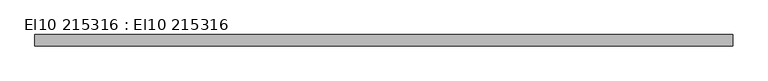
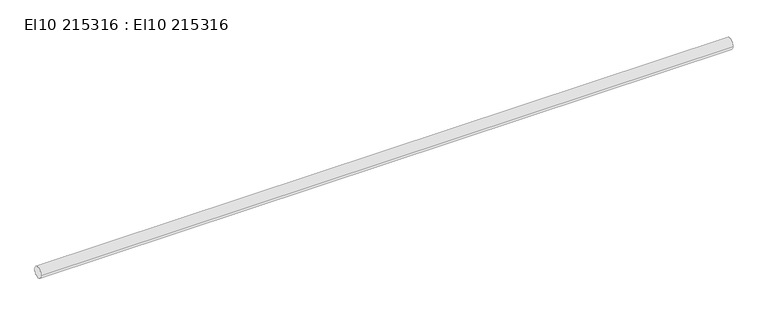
"""IFC4 building model written with IfcOpenShell, lengths in millimetres: cable carrier segment geometry, El10 215316 : El10 215316."""

import ifcopenshell
import ifcopenshell.guid

model = None  # the IFC model being written
_history = None  # IfcOwnerHistory: only IFC2X3 demands one
_inside = {}  # id of a spatial element -> (the spatial element, [elements in it])
_under = {}  # id of a project, library or spatial element -> (it, [spatial elements below it])
_declared = {}  # id of a project -> (the project, [libraries it declares])
_typed = {}  # id of a type object -> (the type object, [elements of that type])
_made_of = {}  # id of a material, layer set ... -> (it, [elements and type objects made of it])


def new_model(schema):
    """Start an empty IFC model of exactly this schema.

    Asked for "IFC4X3", IfcOpenShell would pick the latest addendum, in which some entities
    have other attributes; the version numbers below select the first issue.
    IFC2X3 requires an IfcOwnerHistory on every rooted entity: one is made here for all.
    """
    global model, _history
    if schema == "IFC4X3":
        model = ifcopenshell.file(schema_version=(4, 3, 0, 0))
    else:
        model = ifcopenshell.file(schema=schema)
    _inside.clear()
    _under.clear()
    _declared.clear()
    _typed.clear()
    _made_of.clear()
    _history = None
    if model.schema == "IFC2X3":
        org = make("IfcOrganization", Name="unknown")
        user = make(
            "IfcPersonAndOrganization",
            ThePerson=make("IfcPerson", FamilyName="unknown"),
            TheOrganization=org,
        )
        app = make(
            "IfcApplication",
            ApplicationDeveloper=org,
            Version="unknown",
            ApplicationFullName="unknown",
            ApplicationIdentifier="unknown",
        )
        _history = make(
            "IfcOwnerHistory",
            OwningUser=user,
            OwningApplication=app,
            ChangeAction="ADDED",
            CreationDate=0,
        )
    return model


def make(cls, **values):
    """One entity of the class cls with the attributes given. An attribute that is None is left unset."""
    return model.create_entity(
        cls, **{name: value for name, value in values.items() if value is not None}
    )


def rooted(cls, **values):
    """An entity with a GlobalId (a new one), such as an element, a storey or a relation."""
    return make(cls, GlobalId=ifcopenshell.guid.new(), OwnerHistory=_history, **values)


def si_unit(unit_type, name, prefix=None):
    """IfcSIUnit, for example si_unit("LENGTHUNIT", "METRE", prefix="MILLI")."""
    return make("IfcSIUnit", UnitType=unit_type, Prefix=prefix, Name=name)


def assignment(units):
    """IfcUnitAssignment: the units of a project."""
    return None if units is None else make("IfcUnitAssignment", Units=units)


def point(xyz):
    """IfcCartesianPoint."""
    return None if xyz is None else make("IfcCartesianPoint", Coordinates=xyz)


def direction(xyz):
    """IfcDirection."""
    return None if xyz is None else make("IfcDirection", DirectionRatios=xyz)


def frame(location, z_axis=None, x_axis=None):
    """IfcAxis2Placement3D, a coordinate frame: its origin and axes. An axis left out is left unset."""
    return make(
        "IfcAxis2Placement3D",
        Location=point(location),
        Axis=direction(z_axis),
        RefDirection=direction(x_axis),
    )


def frame_2d(location, x_axis=None):
    """IfcAxis2Placement2D, a coordinate frame in the plane: its origin and x axis."""
    return make(
        "IfcAxis2Placement2D", Location=point(location), RefDirection=direction(x_axis)
    )


def origin():
    """The frame at (0, 0, 0) with its axes left unset."""
    return frame((0.0, 0.0, 0.0))


def place(relative_to, where):
    """IfcLocalPlacement: puts the frame where relative to a parent placement (None: the world)."""
    return make(
        "IfcLocalPlacement", PlacementRelTo=relative_to, RelativePlacement=where
    )


def context(
    kind, dimensions, precision=None, world=None, true_north=None, identifier=None
):
    """IfcGeometricRepresentationContext, for example the 3D "Model" context."""
    return make(
        "IfcGeometricRepresentationContext",
        ContextIdentifier=identifier,
        ContextType=kind,
        CoordinateSpaceDimension=dimensions,
        Precision=precision,
        WorldCoordinateSystem=world,
        TrueNorth=true_north,
    )


def project(units=None, contexts=None):
    """IfcProject with its units and contexts."""
    return rooted(
        "IfcProject",
        Name="project",
        RepresentationContexts=contexts,
        UnitsInContext=assignment(units),
    )


def spatial(cls, under=None, at=None, **own):
    """A site, building, storey or space (cls), placed at a placement, below another one or the project."""
    s = rooted(cls, ObjectPlacement=at, **own)
    if under is not None:
        _under.setdefault(under.id(), (under, []))[1].append(s)
    return s


def circle_curve(where, radius):
    """IfcCircle in the frame where."""
    return make("IfcCircle", Position=where, Radius=radius)


def trimmed(basis, trim1, trim2, sense, master):
    """IfcTrimmedCurve: the piece of a basis curve between two trims."""
    return make(
        "IfcTrimmedCurve",
        BasisCurve=basis,
        Trim1=trim1,
        Trim2=trim2,
        SenseAgreement=sense,
        MasterRepresentation=master,
    )


def segment(curve, same_sense, transition):
    """IfcCompositeCurveSegment."""
    return make(
        "IfcCompositeCurveSegment",
        Transition=transition,
        SameSense=same_sense,
        ParentCurve=curve,
    )


def composite_curve(segments, self_intersect=None):
    """IfcCompositeCurve: segments joined end to end."""
    return make("IfcCompositeCurve", Segments=segments, SelfIntersect=self_intersect)


def outline(outer, holes=None, kind="AREA"):
    """IfcArbitraryClosedProfileDef: a profile drawn as a closed curve; with holes, ...WithVoids."""
    if holes is None:
        return make("IfcArbitraryClosedProfileDef", ProfileType=kind, OuterCurve=outer)
    return make(
        "IfcArbitraryProfileDefWithVoids",
        ProfileType=kind,
        OuterCurve=outer,
        InnerCurves=holes,
    )


def extrude(swept, where, along, depth):
    """IfcExtrudedAreaSolid: the profile swept, set in the frame where, extruded along a direction by depth."""
    return make(
        "IfcExtrudedAreaSolid",
        SweptArea=swept,
        Position=where,
        ExtrudedDirection=direction(along),
        Depth=depth,
    )


def shape(context_of_items, identifier, shape_type, items):
    """IfcShapeRepresentation: the items that make up one representation, for example the "Body"."""
    return make(
        "IfcShapeRepresentation",
        ContextOfItems=context_of_items,
        RepresentationIdentifier=identifier,
        RepresentationType=shape_type,
        Items=items,
    )


def source(mapping_origin, context_of_items, identifier, shape_type, items):
    """IfcRepresentationMap: a shape defined once, which mapped items show again and again."""
    return make(
        "IfcRepresentationMap",
        MappingOrigin=mapping_origin,
        MappedRepresentation=shape(context_of_items, identifier, shape_type, items),
    )


def transform(
    local_origin,
    x_axis=None,
    y_axis=None,
    z_axis=None,
    scale=None,
    scale2=None,
    scale3=None,
    uniform=True,
):
    """IfcCartesianTransformationOperator3D, or its non-uniform kind. x_axis, y_axis, z_axis: its Axis1, 2, 3."""
    if uniform:
        return make(
            "IfcCartesianTransformationOperator3D",
            Axis1=direction(x_axis),
            Axis2=direction(y_axis),
            LocalOrigin=point(local_origin),
            Scale=scale,
            Axis3=direction(z_axis),
        )
    return make(
        "IfcCartesianTransformationOperator3DnonUniform",
        Axis1=direction(x_axis),
        Axis2=direction(y_axis),
        LocalOrigin=point(local_origin),
        Scale=scale,
        Axis3=direction(z_axis),
        Scale2=scale2,
        Scale3=scale3,
    )


def mapped(mapping_source, mapping_target):
    """IfcMappedItem: shows the shape of a source again, moved by a transform."""
    return make(
        "IfcMappedItem", MappingSource=mapping_source, MappingTarget=mapping_target
    )


def made_of(thing, what):
    """Note that an element or type object is made of a material, layer set ...; save() writes the relation."""
    if what is not None:
        _made_of.setdefault(what.id(), (what, []))[1].append(thing)
    return thing


def element(
    cls,
    number,
    at=None,
    inside=None,
    cuts=None,
    type_object=None,
    material=None,
    context=None,
    identifier="Body",
    shape_type=None,
    held_by="IfcProductDefinitionShape",
    body=None,
    shapes=None,
    **own,
):
    """One element of the class cls, such as IfcWall. Its Tag is "e" and its number.

    at: its placement. inside: the storey or other place that contains it. cuts: it is an
    opening in that element (IfcRelVoidsElement). A single representation is given by context,
    identifier, shape_type and body (its items); several are given by shapes. held_by: the class
    of the entity that holds the representations. save() writes the other relations.
    """
    e = rooted(cls, Tag="e%d" % number, ObjectPlacement=at, **own)
    if body is not None:
        shapes = [shape(context, identifier, shape_type, body)]
    if shapes is not None:
        e.Representation = make(held_by, Representations=shapes)
    if inside is not None:
        _inside.setdefault(inside.id(), (inside, []))[1].append(e)
    if cuts is not None:
        rooted(
            "IfcRelVoidsElement", RelatingBuildingElement=cuts, RelatedOpeningElement=e
        )
    if type_object is not None:
        _typed.setdefault(type_object.id(), (type_object, []))[1].append(e)
    return made_of(e, material)


def aggregate(whole, parts):
    """IfcRelAggregates: a whole, such as a stair, and the parts it consists of."""
    return rooted("IfcRelAggregates", RelatingObject=whole, RelatedObjects=parts)


def save(model, path):
    """Write the relations noted so far, then the file.

    IfcRelAggregates (storeys below a building ...), IfcRelContainedInSpatialStructure (elements
    in a storey), IfcRelDefinesByType, IfcRelAssociatesMaterial and IfcRelDeclares: one each for
    every whole, place, type object, material and project.
    """
    for whole, parts in _under.values():
        aggregate(whole, parts)
    for where, things in _inside.values():
        rooted(
            "IfcRelContainedInSpatialStructure",
            RelatedElements=things,
            RelatingStructure=where,
        )
    for kind, things in _typed.values():
        rooted("IfcRelDefinesByType", RelatedObjects=things, RelatingType=kind)
    for what, things in _made_of.values():
        rooted("IfcRelAssociatesMaterial", RelatedObjects=things, RelatingMaterial=what)
    for by, libraries in _declared.values():
        rooted("IfcRelDeclares", RelatingContext=by, RelatedDefinitions=libraries)
    model.write(path)


def el10_215316_el10_215316_77fa5b3a(model_context):
    return source(origin(), model_context, "Body", "SweptSolid", [
        extrude(outline(composite_curve([segment(trimmed(circle_curve(frame_2d((17022.1, 4200.0)), 9.5), [point((17012.6, 4200.0))], [point((17031.6, 4200.0))], False, "CARTESIAN"), True, "CONTINUOUS"), segment(trimmed(circle_curve(frame_2d((17022.1, 4200.0)), 9.5), [point((17031.6, 4200.0))], [point((17012.6, 4200.0))], False, "CARTESIAN"), True, "CONTINUOUS")], self_intersect=False)), frame((28105.0, 0.0, 0.0), z_axis=(1.0, 0.0, 0.0), x_axis=(0.0, 1.0, 0.0)), (0.0, 0.0, 1.0), 1180.0),
    ])


if __name__ == "__main__":
    model = new_model("IFC4")
    model_context = context("Model", 3, world=origin())
    ifc_project = project(units=[si_unit("LENGTHUNIT", "METRE", prefix="MILLI")], contexts=[model_context])
    site = spatial("IfcSite", under=ifc_project)
    building = spatial("IfcBuilding", under=site)
    placement = place(None, origin())
    el10_215316_el10_215316_shape = el10_215316_el10_215316_77fa5b3a(model_context)
    element("IfcCableCarrierSegment", 1, ObjectType="El10 215316 : El10 215316", at=placement, inside=building, context=model_context, shape_type="MappedRepresentation", body=[
        mapped(el10_215316_el10_215316_shape, transform((0.0, 0.0, 0.0), x_axis=(1.0, 0.0, 0.0), y_axis=(0.0, 1.0, 0.0), z_axis=(0.0, 0.0, 1.0))),
    ])
    save(model, "model.ifc")
